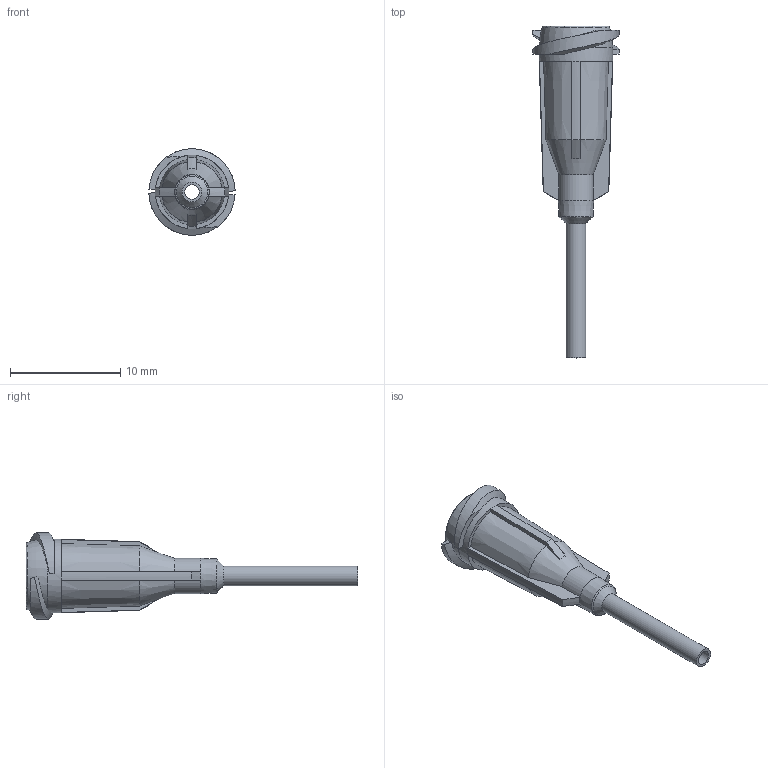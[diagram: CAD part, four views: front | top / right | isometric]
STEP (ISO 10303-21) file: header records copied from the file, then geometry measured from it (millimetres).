
FILE_DESCRIPTION (( 'STEP AP214' ), '1' );
FILE_NAME ('DAV PP 15 05.STEP', '2023-09-28T15:12:26', ( '' ), ( '' ), 'SwSTEP 2.0', 'SolidWorks 2022', '' );
FILE_SCHEMA (( 'AUTOMOTIVE_DESIGN' ));
Length unit declared in the file: millimetre
Products named in the file (1): DAV PP 15 05
Bounding box: 7.82 x 30.07 x 7.82 mm (x, y, z)
Volume: 270.2 mm3; surface area: 666.7 mm2
Topology: 1 solids, 1 shells, 63 faces, 161 edges, 101 vertices
Faces by surface type: plane 23, cone 16, bspline 10, cylinder 7, torus 7
Full cylindrical faces by diameter (mm): 1.3 x1, 1.8 x1, 2.87 x1, 6.655 x1
Entity records: 2066 total; most frequent: CARTESIAN_POINT 796, ORIENTED_EDGE 262, DIRECTION 228, EDGE_CURVE 131, AXIS2_PLACEMENT_3D 99, VERTEX_POINT 89, EDGE_LOOP 80, FACE_OUTER_BOUND 71
